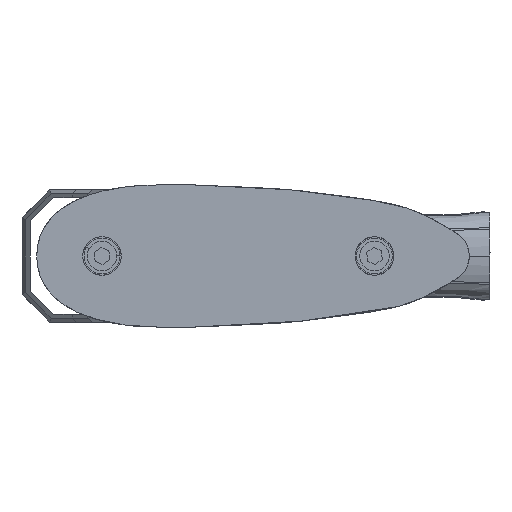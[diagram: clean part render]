
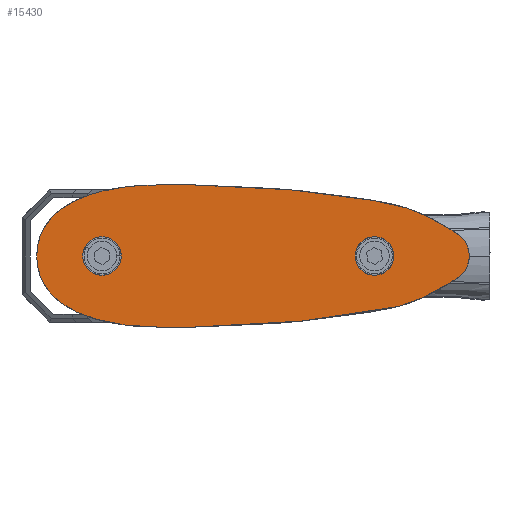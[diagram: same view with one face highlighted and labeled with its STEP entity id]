
A CAD part, left-side view. The second image highlights one B-rep face of the part: STEP entity #15430.
In plain terms, the highlighted planar face has unit normal (-1, 0, 0) as drawn and (0, -1, 0) by its records, which use the part's own axes.
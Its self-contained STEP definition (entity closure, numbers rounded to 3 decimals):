
#490=CIRCLE('',#16328,6.5);
#492=CIRCLE('',#16331,6.5);
#493=CIRCLE('',#16333,9.);
#851=PLANE('',#16346);
#1832=LINE('',#48099,#2820);
#1837=LINE('',#48143,#2825);
#2820=VECTOR('',#19063,1000.);
#2825=VECTOR('',#19070,1000.);
#3348=B_SPLINE_CURVE_WITH_KNOTS('',3,(#48083,#48084,#48085,#48086,#48087,
#48088),.UNSPECIFIED.,.F.,.F.,(4,1,1,4),(0.,0.167,0.38,
1.),.UNSPECIFIED.);
#3350=B_SPLINE_CURVE_WITH_KNOTS('',3,(#48112,#48113,#48114,#48115),
 .UNSPECIFIED.,.F.,.F.,(4,4),(0.,1.),.UNSPECIFIED.);
#3352=B_SPLINE_CURVE_WITH_KNOTS('',3,(#48131,#48132,#48133,#48134),
 .UNSPECIFIED.,.F.,.F.,(4,4),(0.,1.),.UNSPECIFIED.);
#3354=B_SPLINE_CURVE_WITH_KNOTS('',3,(#48182,#48183,#48184,#48185,#48186,
#48187),.UNSPECIFIED.,.F.,.F.,(4,1,1,4),(0.,0.62,0.833,
1.),.UNSPECIFIED.);
#7045=ORIENTED_EDGE('',*,*,#8875,.F.);
#7046=ORIENTED_EDGE('',*,*,#8879,.F.);
#7047=ORIENTED_EDGE('',*,*,#8897,.F.);
#7048=ORIENTED_EDGE('',*,*,#8894,.F.);
#7049=ORIENTED_EDGE('',*,*,#8891,.F.);
#7050=ORIENTED_EDGE('',*,*,#8888,.F.);
#7051=ORIENTED_EDGE('',*,*,#8885,.F.);
#7052=ORIENTED_EDGE('',*,*,#8882,.F.);
#7053=ORIENTED_EDGE('',*,*,#8877,.T.);
#8875=EDGE_CURVE('',#10117,#10117,#490,.T.);
#8877=EDGE_CURVE('',#10119,#10119,#492,.F.);
#8879=EDGE_CURVE('',#10120,#10122,#493,.F.);
#8882=EDGE_CURVE('',#10122,#10124,#3348,.T.);
#8885=EDGE_CURVE('',#10124,#10126,#1832,.T.);
#8888=EDGE_CURVE('',#10126,#10128,#3350,.T.);
#8891=EDGE_CURVE('',#10128,#10130,#3352,.T.);
#8894=EDGE_CURVE('',#10130,#10132,#1837,.T.);
#8897=EDGE_CURVE('',#10132,#10120,#3354,.T.);
#10117=VERTEX_POINT('',#48034);
#10119=VERTEX_POINT('',#48039);
#10120=VERTEX_POINT('',#48042);
#10122=VERTEX_POINT('',#48045);
#10124=VERTEX_POINT('',#48089);
#10126=VERTEX_POINT('',#48100);
#10128=VERTEX_POINT('',#48116);
#10130=VERTEX_POINT('',#48135);
#10132=VERTEX_POINT('',#48144);
#11011=EDGE_LOOP('',(#7045));
#11012=EDGE_LOOP('',(#7046,#7047,#7048,#7049,#7050,#7051,#7052));
#11013=EDGE_LOOP('',(#7053));
#11801=FACE_BOUND('',#11011,.T.);
#11802=FACE_BOUND('',#11012,.T.);
#11803=FACE_BOUND('',#11013,.T.);
#15430=ADVANCED_FACE('',(#11801,#11802,#11803),#851,.T.);
#16328=AXIS2_PLACEMENT_3D('',#48033,#19044,#19045);
#16331=AXIS2_PLACEMENT_3D('',#48038,#19050,#19051);
#16333=AXIS2_PLACEMENT_3D('',#48044,#19055,#19056);
#16346=AXIS2_PLACEMENT_3D('',#48207,#19091,#19092);
#19044=DIRECTION('',(0.,-1.,0.));
#19045=DIRECTION('',(0.,0.,-1.));
#19050=DIRECTION('',(0.,-1.,0.));
#19051=DIRECTION('',(0.,0.,-1.));
#19055=DIRECTION('',(0.,-1.,0.));
#19056=DIRECTION('',(0.,0.,-1.));
#19063=DIRECTION('',(-1.,0.,0.));
#19070=DIRECTION('',(1.,0.,0.));
#19091=DIRECTION('',(0.,-1.,0.));
#19092=DIRECTION('',(0.,0.,1.));
#48033=CARTESIAN_POINT('',(22.,10.,0.));
#48034=CARTESIAN_POINT('',(22.,10.,-6.5));
#48038=CARTESIAN_POINT('',(114.,10.,0.));
#48039=CARTESIAN_POINT('',(114.,10.,-6.5));
#48042=CARTESIAN_POINT('',(143.364,10.,6.364));
#48044=CARTESIAN_POINT('',(137.,10.,0.));
#48045=CARTESIAN_POINT('',(143.364,10.,-6.364));
#48083=CARTESIAN_POINT('',(143.364,10.,-6.364));
#48084=CARTESIAN_POINT('',(142.091,10.,-7.637));
#48085=CARTESIAN_POINT('',(128.,10.,-16.5));
#48086=CARTESIAN_POINT('',(100.,10.,-21.));
#48087=CARTESIAN_POINT('',(74.5,10.,-24.));
#48088=CARTESIAN_POINT('',(53.,10.,-24.));
#48089=CARTESIAN_POINT('',(53.,10.,-24.));
#48099=CARTESIAN_POINT('',(41.,10.,-24.));
#48100=CARTESIAN_POINT('',(41.,10.,-24.));
#48112=CARTESIAN_POINT('',(41.,10.,-24.));
#48113=CARTESIAN_POINT('',(18.5,10.,-24.));
#48114=CARTESIAN_POINT('',(0.,10.,-16.5));
#48115=CARTESIAN_POINT('',(0.,10.,0.));
#48116=CARTESIAN_POINT('',(0.,10.,0.));
#48131=CARTESIAN_POINT('',(0.,10.,0.));
#48132=CARTESIAN_POINT('',(0.,10.,16.5));
#48133=CARTESIAN_POINT('',(18.5,10.,24.));
#48134=CARTESIAN_POINT('',(41.,10.,24.));
#48135=CARTESIAN_POINT('',(41.,10.,24.));
#48143=CARTESIAN_POINT('',(41.,10.,24.));
#48144=CARTESIAN_POINT('',(53.,10.,24.));
#48182=CARTESIAN_POINT('',(53.,10.,24.));
#48183=CARTESIAN_POINT('',(74.5,10.,24.));
#48184=CARTESIAN_POINT('',(100.,10.,21.));
#48185=CARTESIAN_POINT('',(128.,10.,16.5));
#48186=CARTESIAN_POINT('',(142.091,10.,7.637));
#48187=CARTESIAN_POINT('',(143.364,10.,6.364));
#48207=CARTESIAN_POINT('',(0.,10.,0.));
